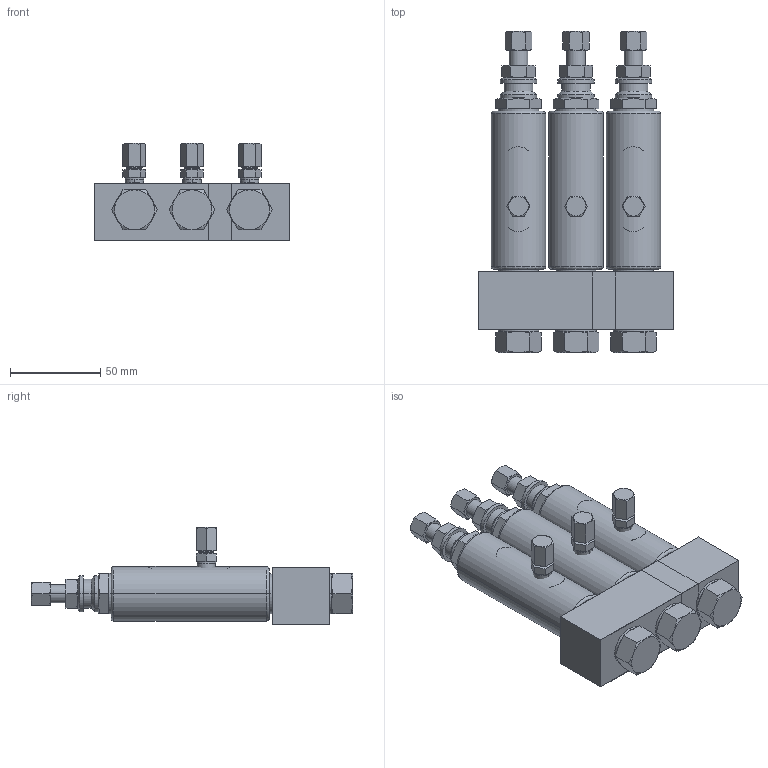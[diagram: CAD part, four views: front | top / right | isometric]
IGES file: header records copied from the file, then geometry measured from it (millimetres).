
Start section:  PTC IGES file: 114901-en-z.igs
Global section: file name: 114901-en-z.igs; native system: Creo Parametric by PTC Inc.; preprocessor: 2023424; author: qtmwp1; organization: Unknown; date: 20240322.095220; units: inch
Bounding box: 107.8 x 177.5 x 53.69 mm (x, y, z)
Surface area: 86255.4 mm2 (no closed solid volume)
Topology: 0 solids, 0 shells, 384 faces, 1654 edges, 1654 vertices
Faces by surface type: revolution 220, bspline 164
